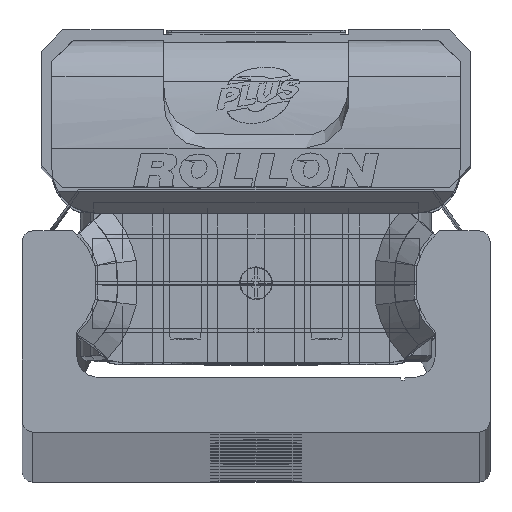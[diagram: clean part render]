
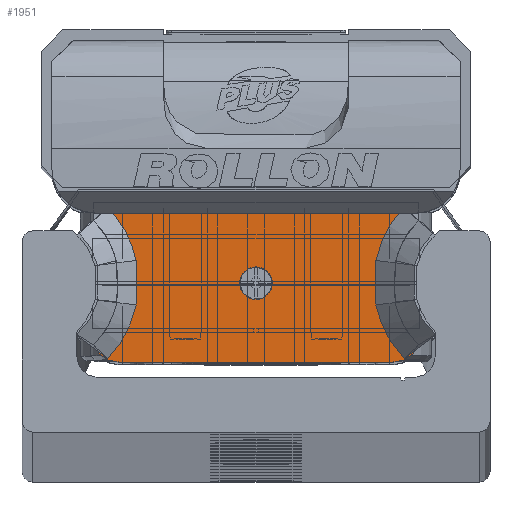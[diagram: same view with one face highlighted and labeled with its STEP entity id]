
A CAD part, top view. The second image highlights one B-rep face of the part: STEP entity #1951.
In plain terms, the highlighted planar face has unit normal (0, 0, 1) as drawn and (0, 0, -1) by its records, which use the part's own axes.
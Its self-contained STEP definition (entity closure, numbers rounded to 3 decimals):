
#1951 = ADVANCED_FACE( '', ( #4174, #4175 ), #4176, .F. );
#4174 = FACE_BOUND( '', #6682, .T. );
#4175 = FACE_OUTER_BOUND( '', #6683, .T. );
#4176 = PLANE( '', #6684 );
#6682 = EDGE_LOOP( '', ( #12030 ) );
#6683 = EDGE_LOOP( '', ( #12031, #12032, #12033, #12034, #12035, #12036, #12037, #12038, #12039, #12040, #12041, #12042 ) );
#6684 = AXIS2_PLACEMENT_3D( '', #12043, #12044, #12045 );
#12030 = ORIENTED_EDGE( '', *, *, #15403, .T. );
#12031 = ORIENTED_EDGE( '', *, *, #13770, .T. );
#12032 = ORIENTED_EDGE( '', *, *, #14113, .F. );
#12033 = ORIENTED_EDGE( '', *, *, #14218, .T. );
#12034 = ORIENTED_EDGE( '', *, *, #13994, .F. );
#12035 = ORIENTED_EDGE( '', *, *, #14189, .T. );
#12036 = ORIENTED_EDGE( '', *, *, #15114, .T. );
#12037 = ORIENTED_EDGE( '', *, *, #15229, .T. );
#12038 = ORIENTED_EDGE( '', *, *, #14167, .T. );
#12039 = ORIENTED_EDGE( '', *, *, #13466, .T. );
#12040 = ORIENTED_EDGE( '', *, *, #14903, .T. );
#12041 = ORIENTED_EDGE( '', *, *, #14356, .T. );
#12042 = ORIENTED_EDGE( '', *, *, #14134, .T. );
#12043 = CARTESIAN_POINT( '', ( 14.9, 7.35, -13.25 ) );
#12044 = DIRECTION( '', ( 0., 0., 1. ) );
#12045 = DIRECTION( '', ( 1., 0., 0. ) );
#13466 = EDGE_CURVE( '', #15931, #15929, #15932, .T. );
#13770 = EDGE_CURVE( '', #16463, #16461, #16464, .T. );
#13994 = EDGE_CURVE( '', #15808, #16843, #16844, .T. );
#14113 = EDGE_CURVE( '', #17035, #16461, #17037, .T. );
#14134 = EDGE_CURVE( '', #17068, #16463, #17069, .T. );
#14167 = EDGE_CURVE( '', #17120, #15931, #17121, .T. );
#14189 = EDGE_CURVE( '', #15808, #17148, #17150, .T. );
#14218 = EDGE_CURVE( '', #17035, #16843, #17198, .T. );
#14356 = EDGE_CURVE( '', #17416, #17068, #17417, .T. );
#14903 = EDGE_CURVE( '', #15929, #17416, #18230, .T. );
#15114 = EDGE_CURVE( '', #17148, #18513, #18515, .T. );
#15229 = EDGE_CURVE( '', #18513, #17120, #18657, .T. );
#15403 = EDGE_CURVE( '', #18856, #18856, #18857, .T. );
#15808 = VERTEX_POINT( '', #19344 );
#15929 = VERTEX_POINT( '', #19498 );
#15931 = VERTEX_POINT( '', #19503 );
#15932 = LINE( '', #19504, #19505 );
#16461 = VERTEX_POINT( '', #20269 );
#16463 = VERTEX_POINT( '', #20272 );
#16464 = B_SPLINE_CURVE_WITH_KNOTS( '', 1, ( #20273, #20274 ), .UNSPECIFIED., .F., .F., ( 2, 2 ), ( 0., 1. ), .UNSPECIFIED. );
#16843 = VERTEX_POINT( '', #20891 );
#16844 = CIRCLE( '', #20892, 2.5 );
#17035 = VERTEX_POINT( '', #21141 );
#17037 = CIRCLE( '', #21144, 2.5 );
#17068 = VERTEX_POINT( '', #21184 );
#17069 = B_SPLINE_CURVE_WITH_KNOTS( '', 2, ( #21185, #21186, #21187, #21188, #21189 ), .UNSPECIFIED., .F., .F., ( 3, 2, 3 ), ( 0., 0.5, 1. ), .UNSPECIFIED. );
#17120 = VERTEX_POINT( '', #21259 );
#17121 = B_SPLINE_CURVE_WITH_KNOTS( '', 2, ( #21260, #21261, #21262, #21263, #21264 ), .UNSPECIFIED., .F., .F., ( 3, 2, 3 ), ( 0., 0.5, 0.868 ), .UNSPECIFIED. );
#17148 = VERTEX_POINT( '', #21296 );
#17150 = B_SPLINE_CURVE_WITH_KNOTS( '', 1, ( #21299, #21300 ), .UNSPECIFIED., .F., .F., ( 2, 2 ), ( 0., 1. ), .UNSPECIFIED. );
#17198 = LINE( '', #21366, #21367 );
#17416 = VERTEX_POINT( '', #21659 );
#17417 = B_SPLINE_CURVE_WITH_KNOTS( '', 2, ( #21660, #21661, #21662 ), .UNSPECIFIED., .F., .F., ( 3, 3 ), ( 0., 1. ), .UNSPECIFIED. );
#18230 = B_SPLINE_CURVE_WITH_KNOTS( '', 2, ( #22782, #22783, #22784, #22785, #22786 ), .UNSPECIFIED., .F., .F., ( 3, 2, 3 ), ( 0.133, 0.5, 1. ), .UNSPECIFIED. );
#18513 = VERTEX_POINT( '', #23189 );
#18515 = B_SPLINE_CURVE_WITH_KNOTS( '', 2, ( #23192, #23193, #23194, #23195, #23196 ), .UNSPECIFIED., .F., .F., ( 3, 2, 3 ), ( 0., 0.5, 1. ), .UNSPECIFIED. );
#18657 = B_SPLINE_CURVE_WITH_KNOTS( '', 2, ( #23367, #23368, #23369 ), .UNSPECIFIED., .F., .F., ( 3, 3 ), ( 0., 1. ), .UNSPECIFIED. );
#18856 = VERTEX_POINT( '', #23625 );
#18857 = CIRCLE( '', #23626, 1.5 );
#19344 = CARTESIAN_POINT( '', ( -14.904, -5.718, -13.25 ) );
#19498 = CARTESIAN_POINT( '', ( 13.12, 6.4, -13.25 ) );
#19503 = CARTESIAN_POINT( '', ( -13.119, 6.4, -13.25 ) );
#19504 = CARTESIAN_POINT( '', ( 14.9, 6.4, -13.25 ) );
#19505 = VECTOR( '', #24206, 1000. );
#20269 = CARTESIAN_POINT( '', ( 14.906, -5.717, -13.25 ) );
#20272 = CARTESIAN_POINT( '', ( 13.628, -6.965, -13.25 ) );
#20273 = CARTESIAN_POINT( '', ( 13.628, -6.965, -13.25 ) );
#20274 = CARTESIAN_POINT( '', ( 14.9, -5.728, -13.25 ) );
#20891 = CARTESIAN_POINT( '', ( -12.58, -7.3, -13.25 ) );
#20892 = AXIS2_PLACEMENT_3D( '', #24937, #24938, #24939 );
#21141 = CARTESIAN_POINT( '', ( 12.58, -7.3, -13.25 ) );
#21144 = AXIS2_PLACEMENT_3D( '', #25099, #25100, #25101 );
#21184 = CARTESIAN_POINT( '', ( 11.012, -2.045, -13.25 ) );
#21185 = CARTESIAN_POINT( '', ( 11.012, -2.045, -13.25 ) );
#21186 = CARTESIAN_POINT( '', ( 11.301, -3.43, -13.25 ) );
#21187 = CARTESIAN_POINT( '', ( 11.972, -4.69, -13.25 ) );
#21188 = CARTESIAN_POINT( '', ( 12.642, -5.95, -13.25 ) );
#21189 = CARTESIAN_POINT( '', ( 13.628, -6.965, -13.25 ) );
#21259 = CARTESIAN_POINT( '', ( -11.012, 2.045, -13.25 ) );
#21260 = CARTESIAN_POINT( '', ( -11.012, 2.045, -13.25 ) );
#21261 = CARTESIAN_POINT( '', ( -11.302, 3.432, -13.25 ) );
#21262 = CARTESIAN_POINT( '', ( -11.967, 4.685, -13.25 ) );
#21263 = CARTESIAN_POINT( '', ( -12.456, 5.606, -13.25 ) );
#21264 = CARTESIAN_POINT( '', ( -13.119, 6.4, -13.25 ) );
#21296 = CARTESIAN_POINT( '', ( -13.628, -6.965, -13.25 ) );
#21299 = CARTESIAN_POINT( '', ( -14.915, -5.713, -13.25 ) );
#21300 = CARTESIAN_POINT( '', ( -13.628, -6.965, -13.25 ) );
#21366 = CARTESIAN_POINT( '', ( 12.58, -7.3, -13.25 ) );
#21367 = VECTOR( '', #25222, 1000. );
#21659 = CARTESIAN_POINT( '', ( 11.012, 2.045, -13.25 ) );
#21660 = CARTESIAN_POINT( '', ( 11.012, 2.045, -13.25 ) );
#21661 = CARTESIAN_POINT( '', ( 10.888, 0., -13.25 ) );
#21662 = CARTESIAN_POINT( '', ( 11.012, -2.045, -13.25 ) );
#22782 = CARTESIAN_POINT( '', ( 13.119, 6.4, -13.25 ) );
#22783 = CARTESIAN_POINT( '', ( 12.459, 5.608, -13.25 ) );
#22784 = CARTESIAN_POINT( '', ( 11.968, 4.684, -13.25 ) );
#22785 = CARTESIAN_POINT( '', ( 11.301, 3.427, -13.25 ) );
#22786 = CARTESIAN_POINT( '', ( 11.012, 2.045, -13.25 ) );
#23189 = CARTESIAN_POINT( '', ( -11.012, -2.045, -13.25 ) );
#23192 = CARTESIAN_POINT( '', ( -13.628, -6.965, -13.25 ) );
#23193 = CARTESIAN_POINT( '', ( -12.638, -5.946, -13.25 ) );
#23194 = CARTESIAN_POINT( '', ( -11.97, -4.691, -13.25 ) );
#23195 = CARTESIAN_POINT( '', ( -11.303, -3.437, -13.25 ) );
#23196 = CARTESIAN_POINT( '', ( -11.012, -2.045, -13.25 ) );
#23367 = CARTESIAN_POINT( '', ( -11.012, -2.045, -13.25 ) );
#23368 = CARTESIAN_POINT( '', ( -10.888, 0., -13.25 ) );
#23369 = CARTESIAN_POINT( '', ( -11.012, 2.045, -13.25 ) );
#23625 = CARTESIAN_POINT( '', ( 1.5, -0.05, -13.25 ) );
#23626 = AXIS2_PLACEMENT_3D( '', #26721, #26722, #26723 );
#24206 = DIRECTION( '', ( 1., 0., 0. ) );
#24937 = CARTESIAN_POINT( '', ( -12.58, -4.8, -13.25 ) );
#24938 = DIRECTION( '', ( 0., 0., 1. ) );
#24939 = DIRECTION( '', ( 1., 0., 0. ) );
#25099 = CARTESIAN_POINT( '', ( 12.58, -4.8, -13.25 ) );
#25100 = DIRECTION( '', ( 0., 0., 1. ) );
#25101 = DIRECTION( '', ( 1., 0., 0. ) );
#25222 = DIRECTION( '', ( -1., 0., 0. ) );
#26721 = CARTESIAN_POINT( '', ( 0., -0.05, -13.25 ) );
#26722 = DIRECTION( '', ( 0., 0., 1. ) );
#26723 = DIRECTION( '', ( 1., 0., 0. ) );
